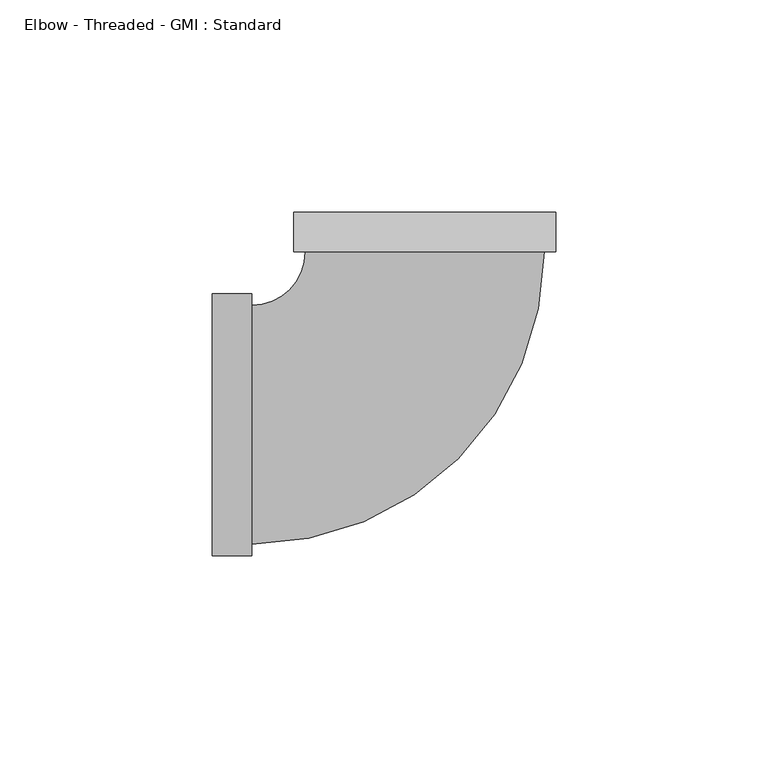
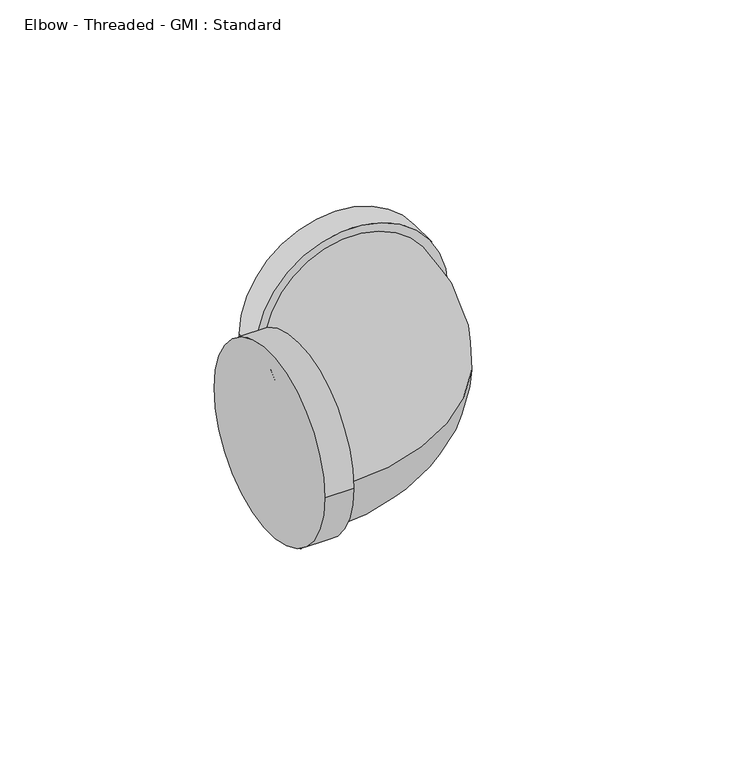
"""IFC4 building model written with IfcOpenShell, lengths in millimetres: pipe fitting geometry, Elbow - Threaded - GMI : Standard."""

from ifc_helpers import new_model, si_unit, point, frame, origin, place, context, project, spatial, circle_curve, ellipse_curve, trimmed, source, transform, mapped, element, save
from ifc_brep_helpers import plane_surface, cylinder_surface, revolved_surface, advanced_brep


def elbow_threaded_gmi_standard_e363b211(model_context):
    return source(origin(), model_context, "Body", "AdvancedBrep", [
        advanced_brep(
        [(-50.0, -30.8, 0.0), (-50.0, 30.8, 0.0), (-40.7, -30.8, 0.0), (-40.7, 30.8, 0.0), (-40.7, -28.09, 0.0), (-40.7, 28.09, 0.0), (30.8, 40.7, 0.0), (-30.8, 40.7, 0.0), (-28.09, 40.7, 0.0), (28.09, 40.7, 0.0), (30.8, 50.0, 0.0), (-30.8, 50.0, 0.0)],
        [
            (0, 1, circle_curve(frame((-50.0, 0.0, 0.0), z_axis=(-1.0, 0.0, 0.0), x_axis=(0.0, 1.0, 0.0)), 30.8)),
            (1, 0, circle_curve(frame((-50.0, 0.0, 0.0), z_axis=(-1.0, 0.0, 0.0), x_axis=(0.0, 1.0, 0.0)), 30.8)),
            (2, 3, circle_curve(frame((-40.7, 0.0, 0.0), z_axis=(1.0, 0.0, 0.0), x_axis=(0.0, 1.0, 0.0)), 30.8)),
            (3, 2, circle_curve(frame((-40.7, 0.0, 0.0), z_axis=(1.0, 0.0, 0.0), x_axis=(0.0, 1.0, 0.0)), 30.8)),
            (4, 5, circle_curve(frame((-40.7, 0.0, 0.0), z_axis=(-1.0, 0.0, 0.0), x_axis=(0.0, 1.0, 0.0)), 28.09)),
            (5, 4, circle_curve(frame((-40.7, 0.0, 0.0), z_axis=(-1.0, 0.0, 0.0), x_axis=(0.0, 1.0, 0.0)), 28.09)),
            (0, 2),
            (3, 1),
            (6, 7, circle_curve(frame((0.0, 40.7, 0.0), z_axis=(0.0, -1.0, 0.0), x_axis=(-1.0, 0.0, 0.0)), 30.8)),
            (7, 6, circle_curve(frame((0.0, 40.7, 0.0), z_axis=(0.0, -1.0, 0.0), x_axis=(-1.0, 0.0, 0.0)), 30.8)),
            (8, 9, circle_curve(frame((0.0, 40.7, 0.0), z_axis=(0.0, 1.0, 0.0), x_axis=(-1.0, 0.0, 0.0)), 28.09)),
            (9, 8, circle_curve(frame((0.0, 40.7, 0.0), z_axis=(0.0, 1.0, 0.0), x_axis=(-1.0, 0.0, 0.0)), 28.09)),
            (10, 11, circle_curve(frame((0.0, 50.0, 0.0), z_axis=(0.0, 1.0, 0.0), x_axis=(-1.0, 0.0, 0.0)), 30.8)),
            (11, 10, circle_curve(frame((0.0, 50.0, 0.0), z_axis=(0.0, 1.0, 0.0), x_axis=(-1.0, 0.0, 0.0)), 30.8)),
            (6, 10),
            (11, 7),
            (8, 5, circle_curve(frame((-40.7, 40.7, 0.0), z_axis=(0.0, 0.0, -1.0), x_axis=(0.0, -1.0, 0.0)), 12.61)),
            (4, 9, circle_curve(frame((-40.7, 40.7, 0.0), z_axis=(0.0, 0.0, 1.0), x_axis=(0.0, -1.0, 0.0)), 68.79)),
        ],
        [
            plane_surface(frame((-50.0, 0.0, 0.0), z_axis=(-1.0, 0.0, 0.0), x_axis=(0.0, 0.0, 1.0))),
            plane_surface(frame((-40.7, 0.0, 0.0), z_axis=(1.0, 0.0, 0.0), x_axis=(0.0, 0.0, 1.0))),
            cylinder_surface(frame((-50.0, 0.0, 0.0), z_axis=(-1.0, 0.0, 0.0), x_axis=(0.0, 1.0, 0.0)), 30.8),
            plane_surface(frame((0.0, 40.7, 0.0), z_axis=(0.0, -1.0, 0.0), x_axis=(0.0, 0.0, 1.0))),
            plane_surface(frame((0.0, 50.0, 0.0), z_axis=(0.0, 1.0, 0.0), x_axis=(0.0, 0.0, 1.0))),
            cylinder_surface(frame((0.0, 40.7, 0.0), z_axis=(0.0, -1.0, 0.0), x_axis=(-1.0, 0.0, 0.0)), 30.8),
            revolved_surface(trimmed(ellipse_curve(frame((-40.7, 0.0, 0.0), z_axis=(-1.0, 0.0, 0.0), x_axis=(0.0, 1.0, 0.0)), 28.09, 28.09), [point((-40.7, -28.09, 0.0))], [point((-40.7, 28.09, 0.0))], True, "CARTESIAN"), (-40.7, 40.7, 0.0), (0.0, 0.0, 1.0)),
            revolved_surface(trimmed(ellipse_curve(frame((-40.7, 0.0, 0.0), z_axis=(-1.0, 0.0, 0.0), x_axis=(0.0, 1.0, 0.0)), 28.09, 28.09), [point((-40.7, 28.09, 0.0))], [point((-40.7, -28.09, 0.0))], True, "CARTESIAN"), (-40.7, 40.7, 0.0), (0.0, 0.0, 1.0)),
        ],
        [
            (0, [[1, 2]]),
            (1, [[3, 4], [5, 6]]),
            (2, [[-1, 7, -4, 8]]),
            (2, [[-2, -8, -3, -7]]),
            (3, [[9, 10], [11, 12]]),
            (4, [[13, 14]]),
            (5, [[-9, 15, -14, 16]]),
            (5, [[-10, -16, -13, -15]]),
            (6, [[17, -5, 18, -11]]),
            (7, [[-17, -12, -18, -6]]),
        ],
    ),
    ])


if __name__ == "__main__":
    model = new_model("IFC4")
    model_context = context("Model", 3, world=origin())
    ifc_project = project(units=[si_unit("LENGTHUNIT", "METRE", prefix="MILLI")], contexts=[model_context])
    site = spatial("IfcSite", under=ifc_project)
    building = spatial("IfcBuilding", under=site)
    placement = place(None, origin())
    elbow_threaded_gmi_standard_shape = elbow_threaded_gmi_standard_e363b211(model_context)
    element("IfcPipeFitting", 1, ObjectType="Elbow - Threaded - GMI : Standard", at=placement, inside=building, context=model_context, shape_type="MappedRepresentation", body=[
        mapped(elbow_threaded_gmi_standard_shape, transform((0.0, 0.0, 0.0), x_axis=(1.0, 0.0, 0.0), y_axis=(0.0, 1.0, 0.0), z_axis=(0.0, 0.0, 1.0))),
    ])
    save(model, "model.ifc")
